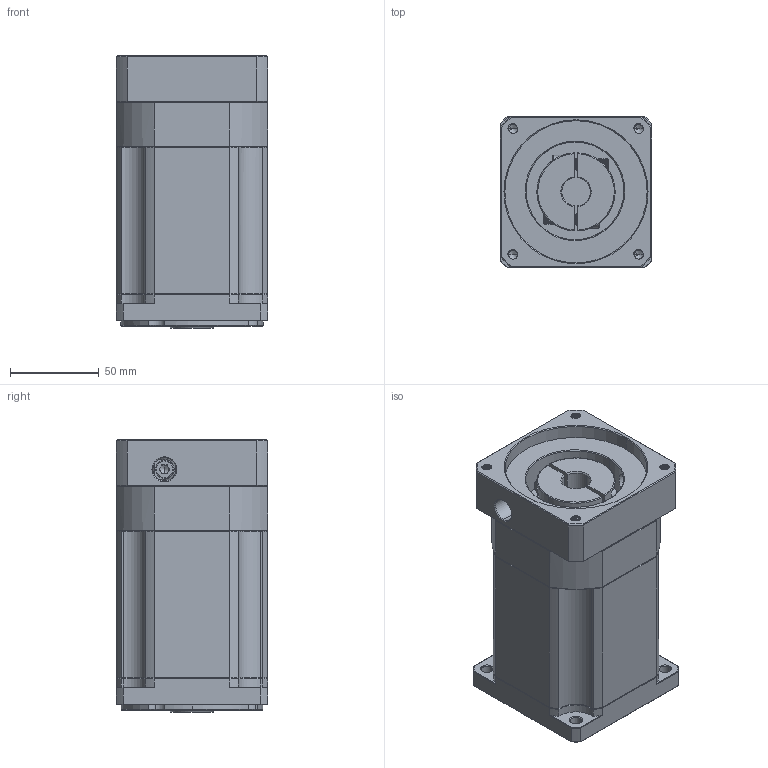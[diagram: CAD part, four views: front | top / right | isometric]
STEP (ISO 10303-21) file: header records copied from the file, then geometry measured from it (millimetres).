
FILE_DESCRIPTION (( 'STEP AP214' ), '1' );
FILE_NAME ('ZB090-K15-L3-P2-16-80-100-M6.step', '2023-08-18T12:19:26', ( '' ), ( '' ), 'SwSTEP 2.0', 'SolidWorks 2016', '' );
FILE_SCHEMA (( 'AUTOMOTIVE_DESIGN' ));
Length unit declared in the file: millimetre
Products named in the file (1): ZB090-K15-L3-P2-16-80-100-M6
Bounding box: 85 x 85 x 153 mm (x, y, z)
Volume: 886695.9 mm3; surface area: 99742.2 mm2
Topology: 4 solids, 5 shells, 2159 faces, 5732 edges, 3657 vertices
Faces by surface type: plane 1059, bspline 390, cylinder 358, cone 327, torus 25
Entity records: 114858 total; most frequent: CARTESIAN_POINT 40652, ORIENTED_EDGE 11424, DIRECTION 8973, EDGE_CURVE 5712, VECTOR 3667, LINE 3667, VERTEX_POINT 3657, AXIS2_PLACEMENT_3D 2653
